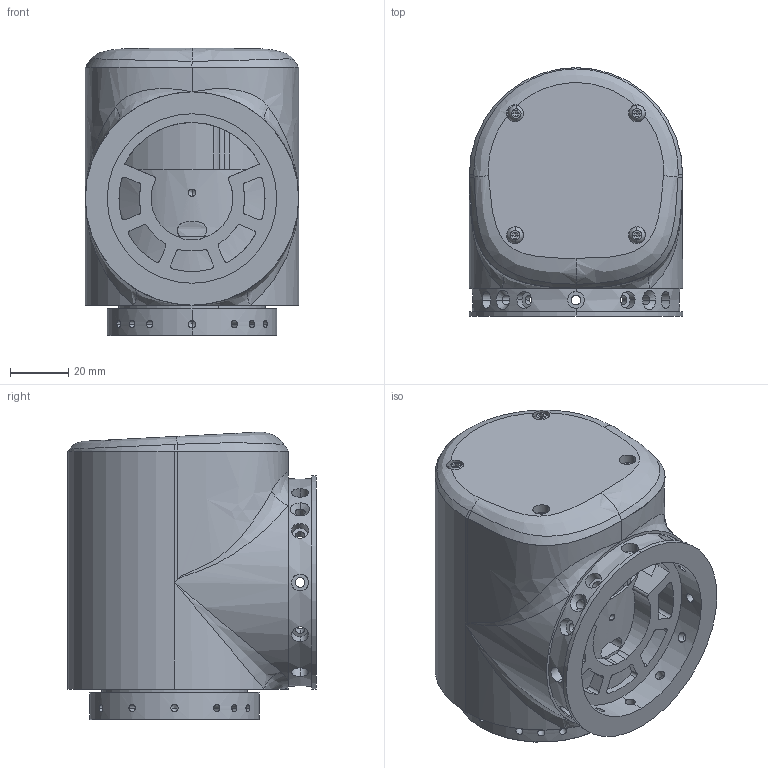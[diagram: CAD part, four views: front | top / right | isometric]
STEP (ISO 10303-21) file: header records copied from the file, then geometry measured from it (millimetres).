
FILE_DESCRIPTION (( 'STEP AP203' ), '1' );
FILE_NAME ('eRob70T.STEP', '2021-02-06T02:50:01', ( '' ), ( '' ), 'SwSTEP 2.0', 'SolidWorks 2016', '' );
FILE_SCHEMA (( 'CONFIG_CONTROL_DESIGN' ));
Length unit declared in the file: millimetre
Products named in the file (6): eRob70T; ZCT0012-70T-002-0 T倰70郋粣潠趙; eDriver-Rob14俋楷唳; ZCT0012-70T-003-0 T倰70綴裔; ZCT0012-70T-005-0 T倰Pcb綴裔; T倰70俋褲20210204
Assembly tree (5 placements, depth 2):
  eRob70T
    eDriver-Rob14俋楷唳
    T倰70俋褲20210204
    ZCT0012-70T-002-0 T倰70郋粣潠趙
    ZCT0012-70T-003-0 T倰70綴裔
    ZCT0012-70T-005-0 T倰Pcb綴裔
Bounding box: 73 x 85 x 98.46 mm (x, y, z)
Volume: 328759.1 mm3; surface area: 90565.9 mm2
Topology: 9 solids, 26 shells, 2570 faces, 6797 edges, 4348 vertices
Faces by surface type: plane 1660, cylinder 497, bspline 234, cone 115, torus 42, sphere 22
Entity records: 95155 total; most frequent: CARTESIAN_POINT 32246, ORIENTED_EDGE 13378, DIRECTION 11880, EDGE_CURVE 6689, LINE 4880, VECTOR 4880, VERTEX_POINT 4344, AXIS2_PLACEMENT_3D 3500
